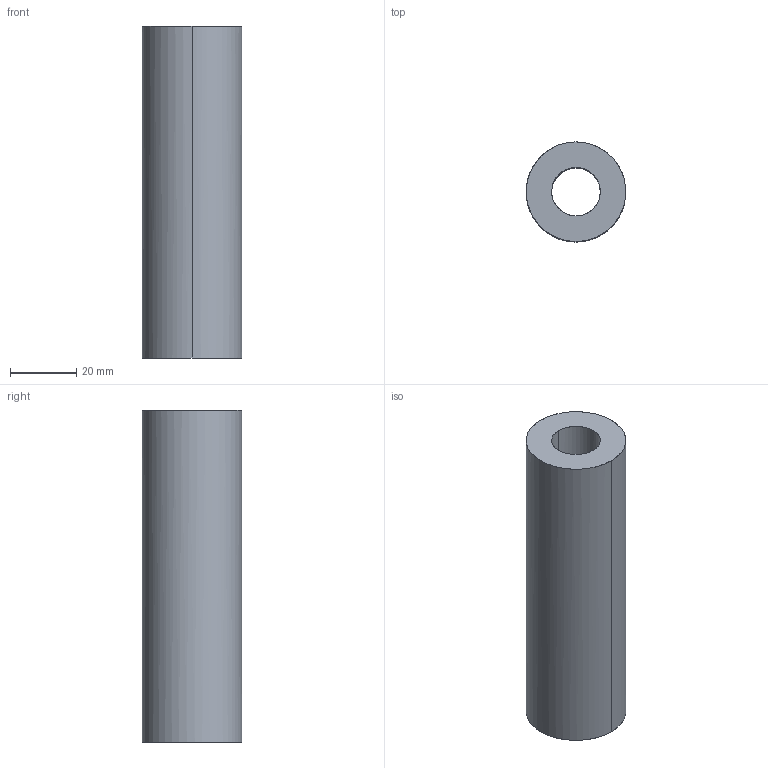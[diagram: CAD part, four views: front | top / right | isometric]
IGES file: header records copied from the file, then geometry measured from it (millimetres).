
Global section: file name: E:\UnigraphicsGraphicData\MISUMI_PRESS-PARTS\IGES\3d_swx30-100_00769_r00.igs; native system: NX V5.0; preprocessor: UGS NX IGES V5.0; author: MISUMI; date: 20110105.163301; units: millimetre
Bounding box: 30 x 30 x 100 mm (x, y, z)
Surface area: 15089.6 mm2 (no closed solid volume)
Topology: 0 solids, 0 shells, 6 faces, 64 edges, 64 vertices
Faces by surface type: bspline 6
